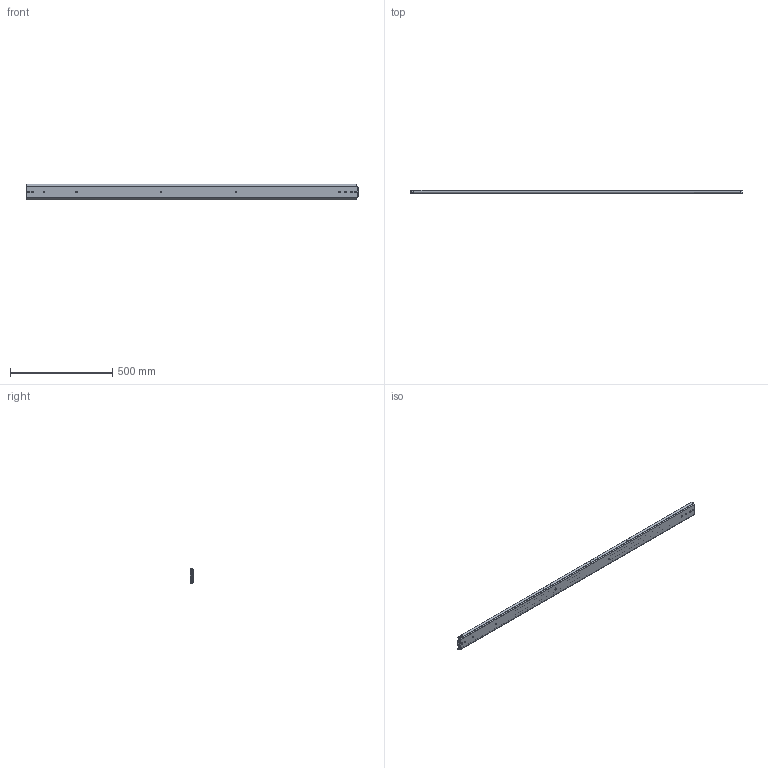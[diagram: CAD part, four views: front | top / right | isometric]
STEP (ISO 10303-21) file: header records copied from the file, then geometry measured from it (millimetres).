
FILE_DESCRIPTION((''),'2;1');
FILE_NAME('DG-76-02-64_ASM','2023-05-15T',('jishu015'),(''),'PRO/ENGINEER BY PARAMETRIC TECHNOLOGY CORPORATION, 2010280','PRO/ENGINEER BY PARAMETRIC TECHNOLOGY CORPORATION, 2010280','');
FILE_SCHEMA(('CONFIG_CONTROL_DESIGN'));
Products named in the file (18): KP-76-04WAIKE3_; 1076-WAIKEZIDANJIAO3_; WAIK72__ASM; 1076XIAOZHUTIAO1_; 163_; 1076XIAOZHUTIAO1__ASM; KP-76-04ZHONGGUI3_; 76CHANGGUIZHONGGUIJIAO3_; 3X6WODIN3_; PJ-76-33_; 76-XIAOZHUJIA3_; GANGZHU-XIAO3_; ZHUJIA-XIAO3__ASM; ZHONGGUI3__ASM; KP-76-04NEIGUI3_; XIN-TANPIAN_; NEIGUI3__ASM; DG-76-02-64_ASM
Assembly tree (110 placements, depth 4):
  DG-76-02-64_ASM
    WAIK72__ASM
      KP-76-04WAIKE3_
      1076-WAIKEZIDANJIAO3_  x2
    1076XIAOZHUTIAO1__ASM  x2
      1076XIAOZHUTIAO1_
      163_
    ZHONGGUI3__ASM
      KP-76-04ZHONGGUI3_
      76CHANGGUIZHONGGUIJIAO3_
      3X6WODIN3_
      PJ-76-33_
      ZHUJIA-XIAO3__ASM
        76-XIAOZHUJIA3_
        GANGZHU-XIAO3_  x62
    NEIGUI3__ASM
      KP-76-04NEIGUI3_
      XIN-TANPIAN_
Bounding box: 1625.6 x 19.5 x 75.3 mm (x, y, z)
Volume: 1067155.2 mm3; surface area: 1023693.3 mm2
Topology: 136 solids, 136 shells, 2704 faces, 8574 edges, 5371 vertices
Faces by surface type: plane 1463, cylinder 876, sphere 250, extrusion 93, cone 18, bspline 4
Entity records: 80106 total; most frequent: CARTESIAN_POINT 19154, ORIENTED_EDGE 13660, DIRECTION 11713, EDGE_CURVE 6830, VERTEX_POINT 4459, AXIS2_PLACEMENT_3D 3961, VECTOR 3791, LINE 3698
